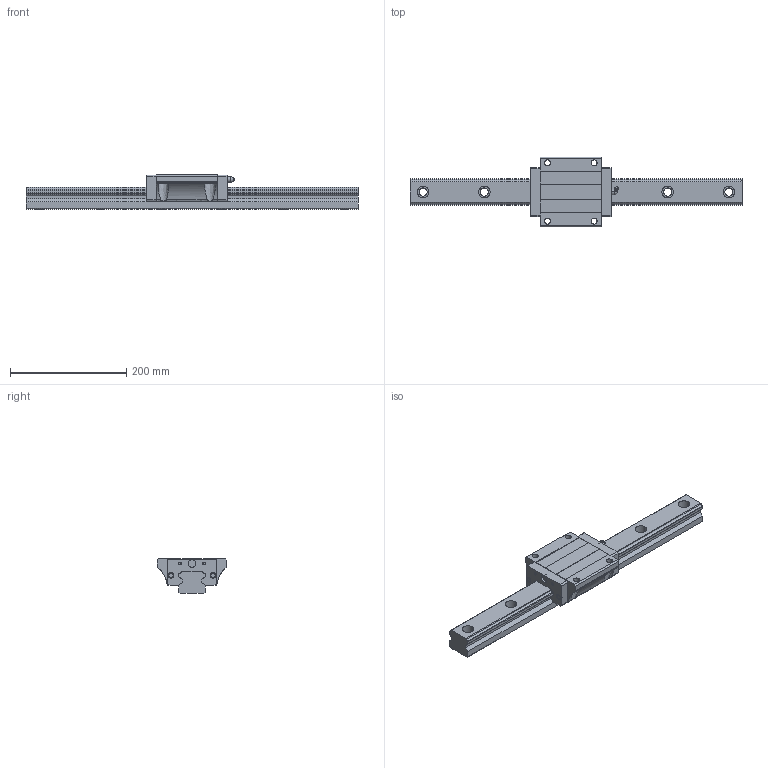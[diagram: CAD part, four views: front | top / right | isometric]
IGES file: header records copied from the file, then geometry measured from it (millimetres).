
Global section: file name: No Iges File Name specified; native system: AutoDesk Inventor R10; preprocessor: AutoDesk Inventor Iges Exporter R10; author: No Author specified; organization: No Organization specified; date: 20101222.164040; units: millimetre
Bounding box: 570 x 120 x 60 mm (x, y, z)
Surface area: 170066.8 mm2 (no closed solid volume)
Topology: 0 solids, 0 shells, 232 faces, 1698 edges, 1686 vertices
Faces by surface type: bspline 232
